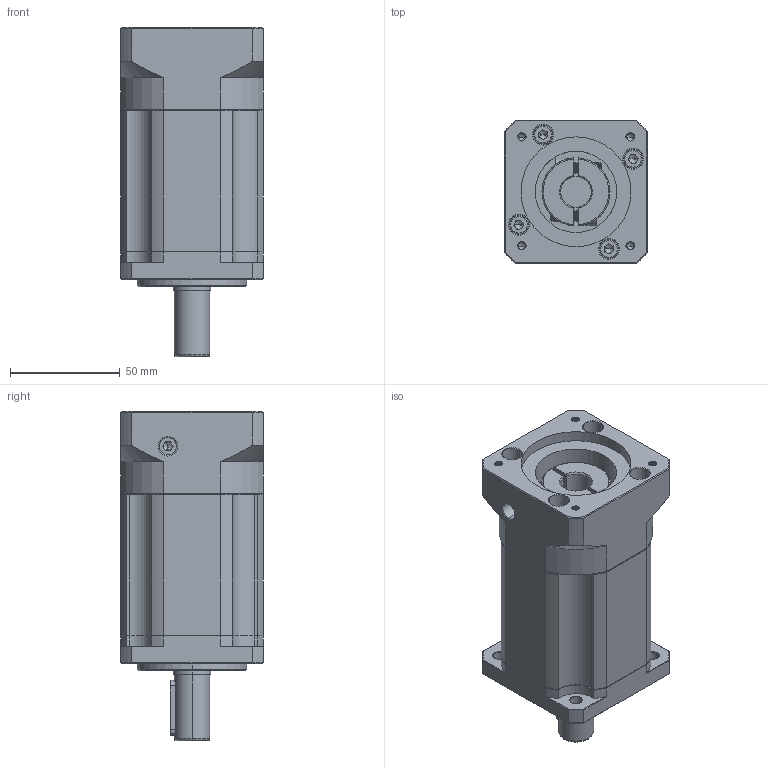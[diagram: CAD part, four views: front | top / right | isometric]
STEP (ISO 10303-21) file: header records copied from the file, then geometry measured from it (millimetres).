
FILE_DESCRIPTION (( 'STEP AP214' ), '1' );
FILE_NAME ('ZB060-D16-L3-P2-14-50-70-M4.step', '2023-08-16T07:07:52', ( '' ), ( '' ), 'SwSTEP 2.0', 'SolidWorks 2016', '' );
FILE_SCHEMA (( 'AUTOMOTIVE_DESIGN' ));
Length unit declared in the file: millimetre
Products named in the file (1): ZB060-D16-L3-P2-14-50-70-M4
Bounding box: 65 x 65 x 150 mm (x, y, z)
Volume: 391042.2 mm3; surface area: 62625.2 mm2
Topology: 6 solids, 6 shells, 2152 faces, 5796 edges, 3732 vertices
Faces by surface type: plane 1059, bspline 397, cylinder 381, cone 281, torus 34
Entity records: 114760 total; most frequent: CARTESIAN_POINT 40209, ORIENTED_EDGE 11532, DIRECTION 9080, EDGE_CURVE 5766, VERTEX_POINT 3732, LINE 3634, VECTOR 3634, AXIS2_PLACEMENT_3D 2723
